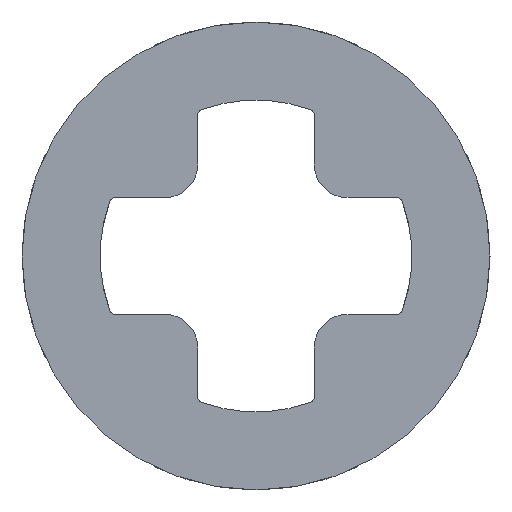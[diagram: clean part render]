
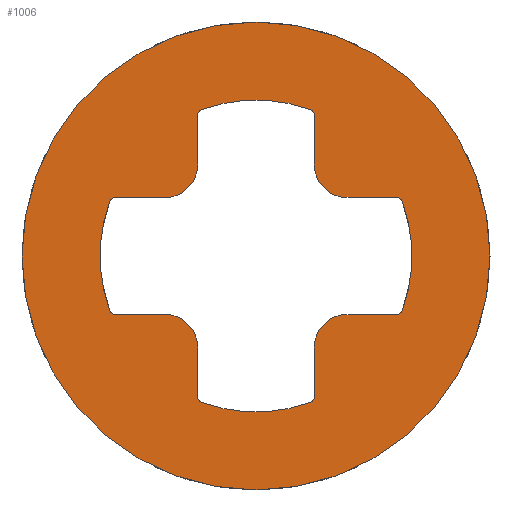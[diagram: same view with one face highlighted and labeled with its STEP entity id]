
A CAD part, left-side view. The second image highlights one B-rep face of the part: STEP entity #1006.
In plain terms, the highlighted planar face has unit normal (-1, 0, 0).
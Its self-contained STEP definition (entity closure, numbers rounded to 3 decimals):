
#22=PLANE('',#1084);
#82=LINE('',#1525,#166);
#83=LINE('',#1534,#167);
#84=LINE('',#1538,#168);
#85=LINE('',#1546,#169);
#86=LINE('',#1550,#170);
#87=LINE('',#1558,#171);
#88=LINE('',#1562,#172);
#89=LINE('',#1570,#173);
#166=VECTOR('',#1214,1000.);
#167=VECTOR('',#1221,1000.);
#168=VECTOR('',#1224,1000.);
#169=VECTOR('',#1231,1000.);
#170=VECTOR('',#1234,1000.);
#171=VECTOR('',#1241,1000.);
#172=VECTOR('',#1244,1000.);
#173=VECTOR('',#1251,1000.);
#264=ORIENTED_EDGE('',*,*,#572,.T.);
#265=ORIENTED_EDGE('',*,*,#573,.T.);
#266=ORIENTED_EDGE('',*,*,#574,.T.);
#267=ORIENTED_EDGE('',*,*,#575,.T.);
#268=ORIENTED_EDGE('',*,*,#576,.T.);
#269=ORIENTED_EDGE('',*,*,#577,.T.);
#270=ORIENTED_EDGE('',*,*,#578,.T.);
#271=ORIENTED_EDGE('',*,*,#579,.T.);
#272=ORIENTED_EDGE('',*,*,#580,.T.);
#273=ORIENTED_EDGE('',*,*,#581,.T.);
#274=ORIENTED_EDGE('',*,*,#582,.T.);
#275=ORIENTED_EDGE('',*,*,#583,.T.);
#276=ORIENTED_EDGE('',*,*,#584,.T.);
#277=ORIENTED_EDGE('',*,*,#585,.T.);
#278=ORIENTED_EDGE('',*,*,#586,.T.);
#279=ORIENTED_EDGE('',*,*,#587,.T.);
#280=ORIENTED_EDGE('',*,*,#588,.T.);
#281=ORIENTED_EDGE('',*,*,#589,.T.);
#282=ORIENTED_EDGE('',*,*,#590,.T.);
#283=ORIENTED_EDGE('',*,*,#591,.T.);
#284=ORIENTED_EDGE('',*,*,#592,.T.);
#285=ORIENTED_EDGE('',*,*,#593,.T.);
#286=ORIENTED_EDGE('',*,*,#594,.T.);
#287=ORIENTED_EDGE('',*,*,#595,.T.);
#288=ORIENTED_EDGE('',*,*,#596,.T.);
#572=EDGE_CURVE('',#726,#727,#82,.T.);
#573=EDGE_CURVE('',#727,#728,#814,.F.);
#574=EDGE_CURVE('',#728,#729,#815,.T.);
#575=EDGE_CURVE('',#729,#730,#816,.F.);
#576=EDGE_CURVE('',#730,#731,#83,.T.);
#577=EDGE_CURVE('',#731,#732,#817,.T.);
#578=EDGE_CURVE('',#732,#733,#84,.T.);
#579=EDGE_CURVE('',#733,#734,#818,.F.);
#580=EDGE_CURVE('',#734,#735,#819,.T.);
#581=EDGE_CURVE('',#735,#736,#820,.F.);
#582=EDGE_CURVE('',#736,#737,#85,.T.);
#583=EDGE_CURVE('',#737,#738,#821,.T.);
#584=EDGE_CURVE('',#738,#739,#86,.T.);
#585=EDGE_CURVE('',#739,#740,#822,.F.);
#586=EDGE_CURVE('',#740,#741,#823,.T.);
#587=EDGE_CURVE('',#741,#742,#824,.F.);
#588=EDGE_CURVE('',#742,#743,#87,.T.);
#589=EDGE_CURVE('',#743,#744,#825,.T.);
#590=EDGE_CURVE('',#744,#745,#88,.T.);
#591=EDGE_CURVE('',#745,#746,#826,.F.);
#592=EDGE_CURVE('',#746,#747,#827,.T.);
#593=EDGE_CURVE('',#747,#748,#828,.F.);
#594=EDGE_CURVE('',#748,#749,#89,.T.);
#595=EDGE_CURVE('',#749,#726,#829,.T.);
#596=EDGE_CURVE('',#750,#750,#830,.T.);
#726=VERTEX_POINT('',#1526);
#727=VERTEX_POINT('',#1527);
#728=VERTEX_POINT('',#1529);
#729=VERTEX_POINT('',#1531);
#730=VERTEX_POINT('',#1533);
#731=VERTEX_POINT('',#1535);
#732=VERTEX_POINT('',#1537);
#733=VERTEX_POINT('',#1539);
#734=VERTEX_POINT('',#1541);
#735=VERTEX_POINT('',#1543);
#736=VERTEX_POINT('',#1545);
#737=VERTEX_POINT('',#1547);
#738=VERTEX_POINT('',#1549);
#739=VERTEX_POINT('',#1551);
#740=VERTEX_POINT('',#1553);
#741=VERTEX_POINT('',#1555);
#742=VERTEX_POINT('',#1557);
#743=VERTEX_POINT('',#1559);
#744=VERTEX_POINT('',#1561);
#745=VERTEX_POINT('',#1563);
#746=VERTEX_POINT('',#1565);
#747=VERTEX_POINT('',#1567);
#748=VERTEX_POINT('',#1569);
#749=VERTEX_POINT('',#1571);
#750=VERTEX_POINT('',#1574);
#814=CIRCLE('',#1085,0.1);
#815=CIRCLE('',#1086,2.4);
#816=CIRCLE('',#1087,0.1);
#817=CIRCLE('',#1088,0.5);
#818=CIRCLE('',#1089,0.1);
#819=CIRCLE('',#1090,2.4);
#820=CIRCLE('',#1091,0.1);
#821=CIRCLE('',#1092,0.5);
#822=CIRCLE('',#1093,0.1);
#823=CIRCLE('',#1094,2.4);
#824=CIRCLE('',#1095,0.1);
#825=CIRCLE('',#1096,0.5);
#826=CIRCLE('',#1097,0.1);
#827=CIRCLE('',#1098,2.4);
#828=CIRCLE('',#1099,0.1);
#829=CIRCLE('',#1100,0.5);
#830=CIRCLE('',#1101,3.6);
#855=EDGE_LOOP('',(#264,#265,#266,#267,#268,#269,#270,#271,#272,#273,#274,
#275,#276,#277,#278,#279,#280,#281,#282,#283,#284,#285,#286,#287));
#856=EDGE_LOOP('',(#288));
#917=FACE_BOUND('',#855,.T.);
#918=FACE_BOUND('',#856,.T.);
#1006=ADVANCED_FACE('',(#917,#918),#22,.T.);
#1084=AXIS2_PLACEMENT_3D('',#1524,#1212,#1213);
#1085=AXIS2_PLACEMENT_3D('',#1528,#1215,#1216);
#1086=AXIS2_PLACEMENT_3D('',#1530,#1217,#1218);
#1087=AXIS2_PLACEMENT_3D('',#1532,#1219,#1220);
#1088=AXIS2_PLACEMENT_3D('',#1536,#1222,#1223);
#1089=AXIS2_PLACEMENT_3D('',#1540,#1225,#1226);
#1090=AXIS2_PLACEMENT_3D('',#1542,#1227,#1228);
#1091=AXIS2_PLACEMENT_3D('',#1544,#1229,#1230);
#1092=AXIS2_PLACEMENT_3D('',#1548,#1232,#1233);
#1093=AXIS2_PLACEMENT_3D('',#1552,#1235,#1236);
#1094=AXIS2_PLACEMENT_3D('',#1554,#1237,#1238);
#1095=AXIS2_PLACEMENT_3D('',#1556,#1239,#1240);
#1096=AXIS2_PLACEMENT_3D('',#1560,#1242,#1243);
#1097=AXIS2_PLACEMENT_3D('',#1564,#1245,#1246);
#1098=AXIS2_PLACEMENT_3D('',#1566,#1247,#1248);
#1099=AXIS2_PLACEMENT_3D('',#1568,#1249,#1250);
#1100=AXIS2_PLACEMENT_3D('',#1572,#1252,#1253);
#1101=AXIS2_PLACEMENT_3D('',#1573,#1254,#1255);
#1212=DIRECTION('',(-1.,0.,0.));
#1213=DIRECTION('',(0.,0.,1.));
#1214=DIRECTION('',(0.,0.,1.));
#1215=DIRECTION('',(-1.,0.,0.));
#1216=DIRECTION('',(0.,0.,1.));
#1217=DIRECTION('',(1.,0.,0.));
#1218=DIRECTION('',(0.,0.,-1.));
#1219=DIRECTION('',(-1.,0.,0.));
#1220=DIRECTION('',(0.,0.,1.));
#1221=DIRECTION('',(0.,0.,-1.));
#1222=DIRECTION('',(-1.,0.,0.));
#1223=DIRECTION('',(0.,0.,1.));
#1224=DIRECTION('',(0.,-1.,0.));
#1225=DIRECTION('',(-1.,0.,0.));
#1226=DIRECTION('',(0.,0.,1.));
#1227=DIRECTION('',(1.,0.,0.));
#1228=DIRECTION('',(0.,0.,1.));
#1229=DIRECTION('',(-1.,0.,0.));
#1230=DIRECTION('',(0.,0.,1.));
#1231=DIRECTION('',(0.,1.,0.));
#1232=DIRECTION('',(-1.,0.,0.));
#1233=DIRECTION('',(0.,0.,1.));
#1234=DIRECTION('',(0.,0.,-1.));
#1235=DIRECTION('',(-1.,0.,0.));
#1236=DIRECTION('',(0.,0.,1.));
#1237=DIRECTION('',(1.,0.,0.));
#1238=DIRECTION('',(0.,0.,1.));
#1239=DIRECTION('',(-1.,0.,0.));
#1240=DIRECTION('',(0.,0.,1.));
#1241=DIRECTION('',(0.,0.,1.));
#1242=DIRECTION('',(-1.,0.,0.));
#1243=DIRECTION('',(0.,0.,1.));
#1244=DIRECTION('',(0.,1.,0.));
#1245=DIRECTION('',(-1.,0.,0.));
#1246=DIRECTION('',(0.,0.,1.));
#1247=DIRECTION('',(1.,0.,0.));
#1248=DIRECTION('',(0.,0.,1.));
#1249=DIRECTION('',(-1.,0.,0.));
#1250=DIRECTION('',(0.,0.,1.));
#1251=DIRECTION('',(0.,-1.,0.));
#1252=DIRECTION('',(-1.,0.,0.));
#1253=DIRECTION('',(0.,0.,1.));
#1254=DIRECTION('',(-1.,0.,0.));
#1255=DIRECTION('',(0.,0.,1.));
#1524=CARTESIAN_POINT('',(-8.,0.,3.6));
#1525=CARTESIAN_POINT('',(-8.,0.9,0.9));
#1526=CARTESIAN_POINT('',(-8.,0.9,1.4));
#1527=CARTESIAN_POINT('',(-8.,0.9,2.156));
#1528=CARTESIAN_POINT('',(-8.,0.8,2.156));
#1529=CARTESIAN_POINT('',(-8.,0.835,2.25));
#1530=CARTESIAN_POINT('',(-8.,0.,0.));
#1531=CARTESIAN_POINT('',(-8.,-0.835,2.25));
#1532=CARTESIAN_POINT('',(-8.,-0.8,2.156));
#1533=CARTESIAN_POINT('',(-8.,-0.9,2.156));
#1534=CARTESIAN_POINT('',(-8.,-0.9,2.225));
#1535=CARTESIAN_POINT('',(-8.,-0.9,1.4));
#1536=CARTESIAN_POINT('',(-8.,-1.4,1.4));
#1537=CARTESIAN_POINT('',(-8.,-1.4,0.9));
#1538=CARTESIAN_POINT('',(-8.,-0.9,0.9));
#1539=CARTESIAN_POINT('',(-8.,-2.156,0.9));
#1540=CARTESIAN_POINT('',(-8.,-2.156,0.8));
#1541=CARTESIAN_POINT('',(-8.,-2.25,0.835));
#1542=CARTESIAN_POINT('',(-8.,0.,0.));
#1543=CARTESIAN_POINT('',(-8.,-2.25,-0.835));
#1544=CARTESIAN_POINT('',(-8.,-2.156,-0.8));
#1545=CARTESIAN_POINT('',(-8.,-2.156,-0.9));
#1546=CARTESIAN_POINT('',(-8.,-2.225,-0.9));
#1547=CARTESIAN_POINT('',(-8.,-1.4,-0.9));
#1548=CARTESIAN_POINT('',(-8.,-1.4,-1.4));
#1549=CARTESIAN_POINT('',(-8.,-0.9,-1.4));
#1550=CARTESIAN_POINT('',(-8.,-0.9,-0.9));
#1551=CARTESIAN_POINT('',(-8.,-0.9,-2.156));
#1552=CARTESIAN_POINT('',(-8.,-0.8,-2.156));
#1553=CARTESIAN_POINT('',(-8.,-0.835,-2.25));
#1554=CARTESIAN_POINT('',(-8.,0.,0.));
#1555=CARTESIAN_POINT('',(-8.,0.835,-2.25));
#1556=CARTESIAN_POINT('',(-8.,0.8,-2.156));
#1557=CARTESIAN_POINT('',(-8.,0.9,-2.156));
#1558=CARTESIAN_POINT('',(-8.,0.9,-2.225));
#1559=CARTESIAN_POINT('',(-8.,0.9,-1.4));
#1560=CARTESIAN_POINT('',(-8.,1.4,-1.4));
#1561=CARTESIAN_POINT('',(-8.,1.4,-0.9));
#1562=CARTESIAN_POINT('',(-8.,0.9,-0.9));
#1563=CARTESIAN_POINT('',(-8.,2.156,-0.9));
#1564=CARTESIAN_POINT('',(-8.,2.156,-0.8));
#1565=CARTESIAN_POINT('',(-8.,2.25,-0.835));
#1566=CARTESIAN_POINT('',(-8.,0.,0.));
#1567=CARTESIAN_POINT('',(-8.,2.25,0.835));
#1568=CARTESIAN_POINT('',(-8.,2.156,0.8));
#1569=CARTESIAN_POINT('',(-8.,2.156,0.9));
#1570=CARTESIAN_POINT('',(-8.,2.225,0.9));
#1571=CARTESIAN_POINT('',(-8.,1.4,0.9));
#1572=CARTESIAN_POINT('',(-8.,1.4,1.4));
#1573=CARTESIAN_POINT('',(-8.,0.,0.));
#1574=CARTESIAN_POINT('',(-8.,0.,3.6));
